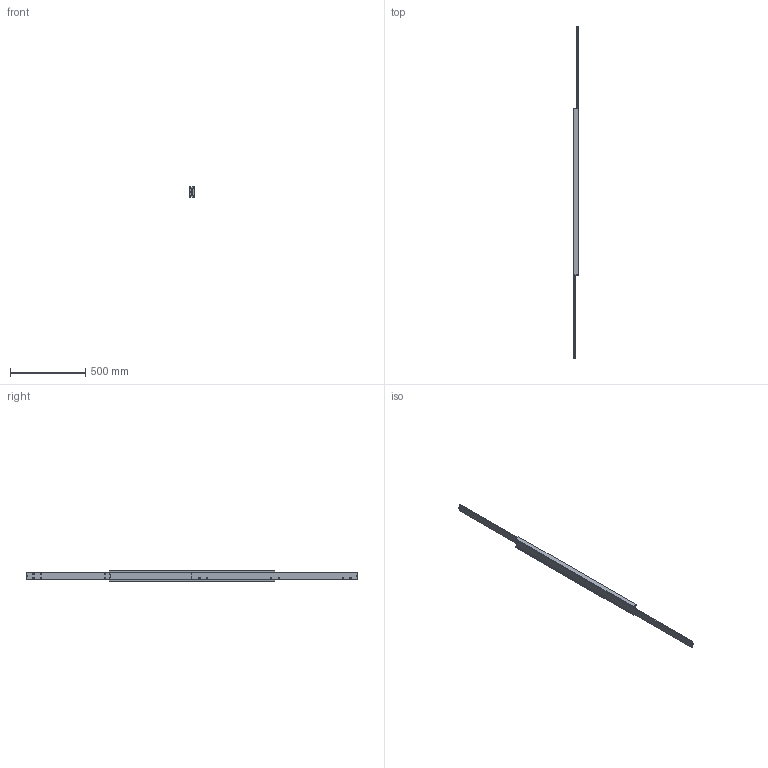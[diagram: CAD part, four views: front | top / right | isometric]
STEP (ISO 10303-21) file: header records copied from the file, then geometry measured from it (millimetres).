
FILE_DESCRIPTION(/* description */ (''),/* implementation_level */ '2;1');
FILE_NAME(/* name */ 'D:\Zeichnungen Schienen Komplett\MX-DTP70\MX-DTP70.110\MX-DTP70.110_ausgefahren.step',/* time_stamp */ '2022-03-03T14:17:42+01:00',/* author */ ('zmile'),/* organization */ (''),/* preprocessor_version */ 'ST-DEVELOPER v16.13',/* originating_system */ 'AutoCAD Mechanical',/* authorisation */ '');
FILE_SCHEMA (('AUTOMOTIVE_DESIGN { 1 0 10303 214 3 1 1 }'));
Length unit declared in the file: millimetre
Products named in the file (1): Product
Bounding box: 32 x 2200 x 70 mm (x, y, z)
Volume: 1875712.1 mm3; surface area: 659803.8 mm2
Topology: 61 solids, 63 shells, 202 faces, 632 edges, 456 vertices
Faces by surface type: plane 94, sphere 56, cylinder 38, bspline 8, torus 6
Full cylindrical faces by diameter (mm): 8 x24, 13 x2
Entity records: 13681 total; most frequent: CARTESIAN_POINT 8253, DIRECTION 1114, ORIENTED_EDGE 828, EDGE_CURVE 486, VERTEX_POINT 454, AXIS2_PLACEMENT_3D 451, EDGE_LOOP 386, CIRCLE 252
